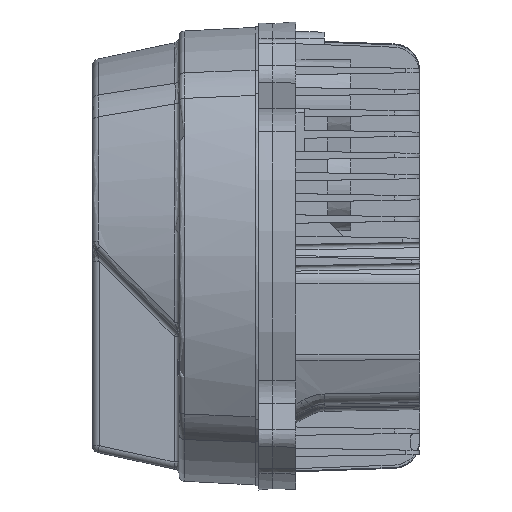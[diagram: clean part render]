
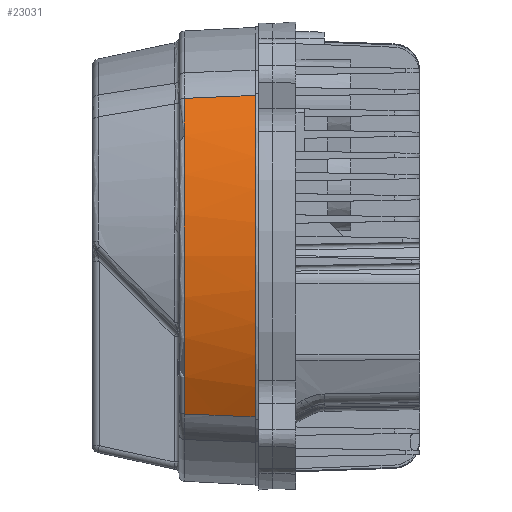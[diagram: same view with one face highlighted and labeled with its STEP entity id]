
A CAD part, left-side view. The second image highlights one B-rep face of the part: STEP entity #23031.
In plain terms, the highlighted conical face has half-angle 3 degrees and reference radius 178.843 mm.
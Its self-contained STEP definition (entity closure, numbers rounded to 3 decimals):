
#1586=CARTESIAN_POINT('',(50.,50.157,0.));
#1587=DIRECTION('',(0.,-1.,0.));
#1588=DIRECTION('',(-0.865,0.,0.502));
#1589=AXIS2_PLACEMENT_3D('',#1586,#1587,#1588);
#1591=CARTESIAN_POINT('',(50.,50.157,0.));
#1592=DIRECTION('',(0.,-1.,0.));
#1593=DIRECTION('',(-1.,0.,0.));
#1594=AXIS2_PLACEMENT_3D('',#1591,#1592,#1593);
#1732=CARTESIAN_POINT('',(50.,10.,0.));
#1733=DIRECTION('',(0.,1.,0.));
#1734=DIRECTION('',(-0.863,0.,-0.506));
#1735=AXIS2_PLACEMENT_3D('',#1732,#1733,#1734);
#1737=CARTESIAN_POINT('',(50.,10.,0.));
#1738=DIRECTION('',(0.,1.,0.));
#1739=DIRECTION('',(-1.,0.,0.));
#1740=AXIS2_PLACEMENT_3D('',#1737,#1738,#1739);
#1820=CARTESIAN_POINT('',(-105.207,10.,
-90.935));
#1821=CARTESIAN_POINT('',(-105.156,11.44,
-90.876));
#1822=CARTESIAN_POINT('',(-105.042,14.319,
-90.75));
#1823=CARTESIAN_POINT('',(-104.892,18.639,
-90.575));
#1824=CARTESIAN_POINT('',(-104.793,21.519,
-90.459));
#1825=CARTESIAN_POINT('',(-104.742,22.959,
-90.4));
#1827=CARTESIAN_POINT('',(-104.742,22.959,
-90.4));
#1828=CARTESIAN_POINT('',(-104.705,23.981,
-90.358));
#1829=CARTESIAN_POINT('',(-104.628,26.026,
-90.271));
#1830=CARTESIAN_POINT('',(-104.521,29.093,
-90.146));
#1831=CARTESIAN_POINT('',(-104.447,31.137,
-90.061));
#1832=CARTESIAN_POINT('',(-104.411,32.159,
-90.019));
#1834=CARTESIAN_POINT('',(-104.411,32.159,
-90.019));
#1835=CARTESIAN_POINT('',(-104.34,34.152,
-89.937));
#1836=CARTESIAN_POINT('',(-104.198,38.143,
-89.772));
#1837=CARTESIAN_POINT('',(-103.991,44.143,
-89.531));
#1838=CARTESIAN_POINT('',(-103.831,48.151,
-89.353));
#1839=CARTESIAN_POINT('',(-103.76,50.157,
-89.27));
#1841=CARTESIAN_POINT('',(-103.752,50.157,89.264));
#1842=CARTESIAN_POINT('',(-103.904,45.721,89.474));
#1843=CARTESIAN_POINT('',(-104.197,36.832,89.867));
#1844=CARTESIAN_POINT('',(-104.768,23.447,90.339));
#1845=CARTESIAN_POINT('',(-105.066,14.488,90.736));
#1846=CARTESIAN_POINT('',(-105.22,10.,90.947));
#1853=CARTESIAN_POINT('',(-105.22,10.,90.947));
#17439=VERTEX_POINT('',#1853);
#17440=VERTEX_POINT('',#1841);
#17443=CARTESIAN_POINT('',(-105.216,10.,-90.94));
#17444=CARTESIAN_POINT('',(-129.895,10.,0.));
#17445=VERTEX_POINT('',#17443);
#17446=VERTEX_POINT('',#17444);
#17447=VERTEX_POINT('',#1825);
#17448=VERTEX_POINT('',#1832);
#17449=VERTEX_POINT('',#1839);
#17452=CARTESIAN_POINT('',(-127.791,50.157,
0.));
#17453=VERTEX_POINT('',#17452);
#23015=CARTESIAN_POINT('',(50.,30.079,0.));
#23016=DIRECTION('',(0.,-1.,0.));
#23017=DIRECTION('',(-1.,0.,0.));
#23018=AXIS2_PLACEMENT_3D('',#23015,#23016,#23017);
#23019=CONICAL_SURFACE('',#23018,178.843,3.);
#23020=ORIENTED_EDGE('',*,*,#22945,.F.);
#23021=ORIENTED_EDGE('',*,*,#22943,.F.);
#23022=ORIENTED_EDGE('',*,*,#23010,.T.);
#23023=ORIENTED_EDGE('',*,*,#23008,.T.);
#23024=ORIENTED_EDGE('',*,*,#23006,.T.);
#23025=ORIENTED_EDGE('',*,*,#22713,.F.);
#23026=ORIENTED_EDGE('',*,*,#22711,.F.);
#23028=ORIENTED_EDGE('',*,*,#23027,.T.);
#23029=EDGE_LOOP('',(#23020,#23021,#23022,#23023,#23024,#23025,#23026,#23028));
#23030=FACE_OUTER_BOUND('',#23029,.F.);
#23031=ADVANCED_FACE('',(#23030),#23019,.T.);
#1590=CIRCLE('',#1589,177.791);
#1595=CIRCLE('',#1594,177.791);
#1736=CIRCLE('',#1735,179.895);
#1741=CIRCLE('',#1740,179.895);
#1826=B_SPLINE_CURVE_WITH_KNOTS('',3,(#1820,#1821,#1822,#1823,#1824,#1825),
.UNSPECIFIED.,.F.,.F.,(4,1,1,4),(0.,0.333,0.667,1.),
.UNSPECIFIED.);
#1833=B_SPLINE_CURVE_WITH_KNOTS('',3,(#1827,#1828,#1829,#1830,#1831,#1832),
.UNSPECIFIED.,.F.,.F.,(4,1,1,4),(0.,0.333,0.667,1.),
.UNSPECIFIED.);
#1840=B_SPLINE_CURVE_WITH_KNOTS('',3,(#1834,#1835,#1836,#1837,#1838,#1839),
.UNSPECIFIED.,.F.,.F.,(4,1,1,4),(0.,0.333,0.667,1.),
.UNSPECIFIED.);
#1847=B_SPLINE_CURVE_WITH_KNOTS('',3,(#1841,#1842,#1843,#1844,#1845,#1846),
.UNSPECIFIED.,.F.,.F.,(4,1,1,4),(0.,0.333,0.667,1.),
.UNSPECIFIED.);
#22711=EDGE_CURVE('',#17440,#17453,#1590,.T.);
#22713=EDGE_CURVE('',#17453,#17449,#1595,.T.);
#22943=EDGE_CURVE('',#17445,#17446,#1736,.T.);
#22945=EDGE_CURVE('',#17446,#17439,#1741,.T.);
#23006=EDGE_CURVE('',#17448,#17449,#1840,.T.);
#23008=EDGE_CURVE('',#17447,#17448,#1833,.T.);
#23010=EDGE_CURVE('',#17445,#17447,#1826,.T.);
#23027=EDGE_CURVE('',#17440,#17439,#1847,.T.);
